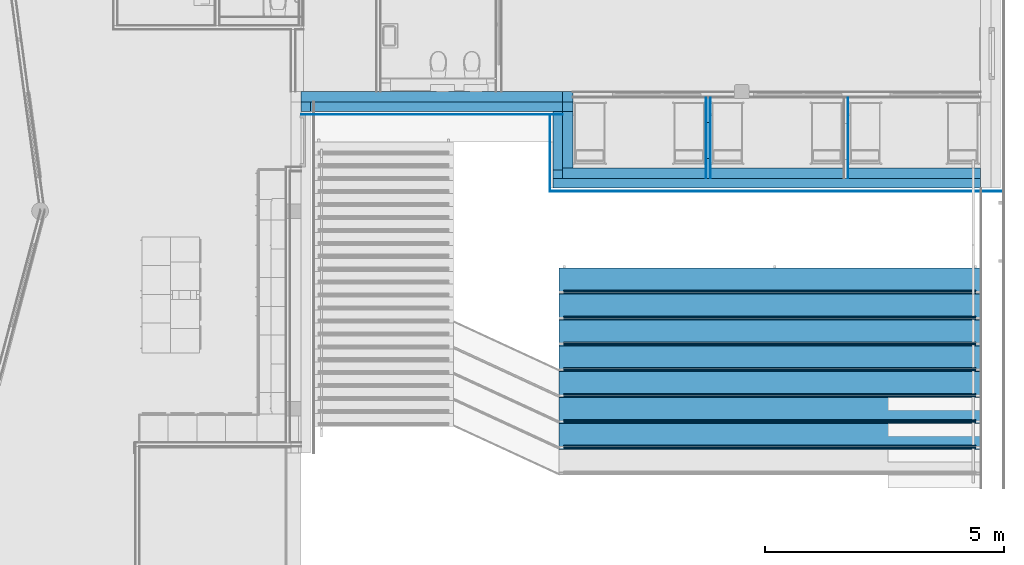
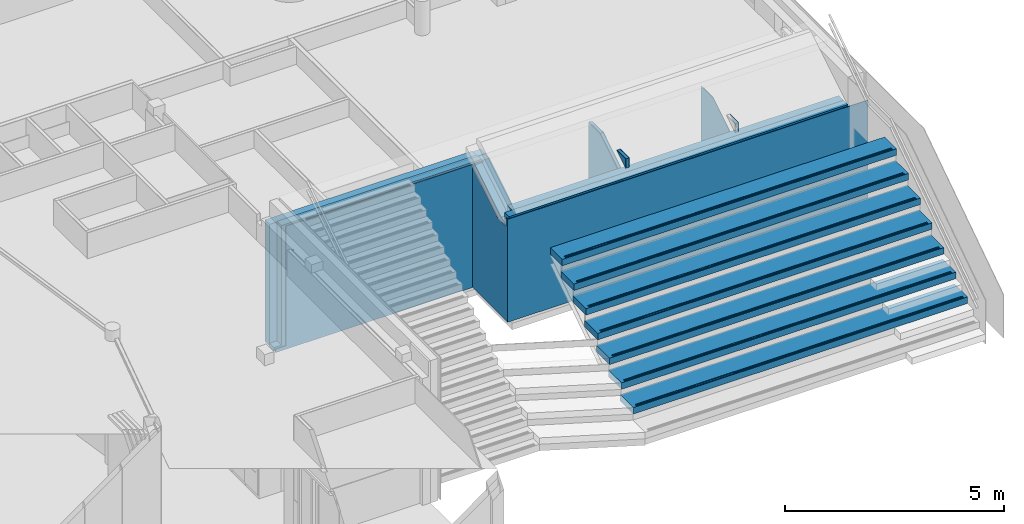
# One storey, part 70 of 167: 27 building element parts, 13 elements without a shape of their own.
"""IFC2X3 building model written with IfcOpenShell, lengths in millimetres."""

import ifcopenshell
import ifcopenshell.guid

model = None  # the IFC model being written
_history = None  # IfcOwnerHistory: only IFC2X3 demands one
_inside = {}  # id of a spatial element -> (the spatial element, [elements in it])
_under = {}  # id of a project, library or spatial element -> (it, [spatial elements below it])
_declared = {}  # id of a project -> (the project, [libraries it declares])
_typed = {}  # id of a type object -> (the type object, [elements of that type])
_made_of = {}  # id of a material, layer set ... -> (it, [elements and type objects made of it])


def new_model(schema):
    """Start an empty IFC model of exactly this schema.

    Asked for "IFC4X3", IfcOpenShell would pick the latest addendum, in which some entities
    have other attributes; the version numbers below select the first issue.
    IFC2X3 requires an IfcOwnerHistory on every rooted entity: one is made here for all.
    """
    global model, _history
    if schema == "IFC4X3":
        model = ifcopenshell.file(schema_version=(4, 3, 0, 0))
    else:
        model = ifcopenshell.file(schema=schema)
    _inside.clear()
    _under.clear()
    _declared.clear()
    _typed.clear()
    _made_of.clear()
    _history = None
    if model.schema == "IFC2X3":
        org = make("IfcOrganization", Name="unknown")
        user = make(
            "IfcPersonAndOrganization",
            ThePerson=make("IfcPerson", FamilyName="unknown"),
            TheOrganization=org,
        )
        app = make(
            "IfcApplication",
            ApplicationDeveloper=org,
            Version="unknown",
            ApplicationFullName="unknown",
            ApplicationIdentifier="unknown",
        )
        _history = make(
            "IfcOwnerHistory",
            OwningUser=user,
            OwningApplication=app,
            ChangeAction="ADDED",
            CreationDate=0,
        )
    return model


def make(cls, **values):
    """One entity of the class cls with the attributes given. An attribute that is None is left unset."""
    return model.create_entity(
        cls, **{name: value for name, value in values.items() if value is not None}
    )


def entity(cls, *values):
    """Any entity or typed value of the class cls, its attributes in the order of the schema. None: left unset."""
    e = model.create_entity(cls)
    for i, value in enumerate(values):
        if value is not None:
            e[i] = value
    return e


def rooted(cls, **values):
    """An entity with a GlobalId (a new one), such as an element, a storey or a relation."""
    return make(cls, GlobalId=ifcopenshell.guid.new(), OwnerHistory=_history, **values)


def si_unit(unit_type, name, prefix=None):
    """IfcSIUnit, for example si_unit("LENGTHUNIT", "METRE", prefix="MILLI")."""
    return make("IfcSIUnit", UnitType=unit_type, Prefix=prefix, Name=name)


def converted_unit(unit_type, name, factor, base, dimensions=None, offset=None):
    """IfcConversionBasedUnit, such as the inch: factor (a typed value) times the base unit."""
    return make(
        "IfcConversionBasedUnit"
        if offset is None
        else "IfcConversionBasedUnitWithOffset",
        ConversionOffset=offset,
        Dimensions=None
        if dimensions is None
        else entity("IfcDimensionalExponents", *dimensions),
        UnitType=unit_type,
        Name=name,
        ConversionFactor=make(
            "IfcMeasureWithUnit", ValueComponent=factor, UnitComponent=base
        ),
    )


def derived_unit(unit_type, elements):
    """IfcDerivedUnit: a product of units, each with its exponent."""
    return make(
        "IfcDerivedUnit",
        Elements=[
            make("IfcDerivedUnitElement", Unit=unit, Exponent=power)
            for unit, power in elements
        ],
        UnitType=unit_type,
    )


def money_unit(currency):
    """IfcMonetaryUnit."""
    return make("IfcMonetaryUnit", Currency=currency)


def assignment(units):
    """IfcUnitAssignment: the units of a project."""
    return None if units is None else make("IfcUnitAssignment", Units=units)


def point(xyz):
    """IfcCartesianPoint."""
    return None if xyz is None else make("IfcCartesianPoint", Coordinates=xyz)


def direction(xyz):
    """IfcDirection."""
    return None if xyz is None else make("IfcDirection", DirectionRatios=xyz)


def frame(location, z_axis=None, x_axis=None):
    """IfcAxis2Placement3D, a coordinate frame: its origin and axes. An axis left out is left unset."""
    return make(
        "IfcAxis2Placement3D",
        Location=point(location),
        Axis=direction(z_axis),
        RefDirection=direction(x_axis),
    )


def origin_with_axes():
    """The frame at (0, 0, 0) with the z axis (0, 0, 1) and the x axis (1, 0, 0) written out."""
    return frame((0.0, 0.0, 0.0), z_axis=(0.0, 0.0, 1.0), x_axis=(1.0, 0.0, 0.0))


def place(relative_to, where):
    """IfcLocalPlacement: puts the frame where relative to a parent placement (None: the world)."""
    return make(
        "IfcLocalPlacement", PlacementRelTo=relative_to, RelativePlacement=where
    )


def context(
    kind, dimensions, precision=None, world=None, true_north=None, identifier=None
):
    """IfcGeometricRepresentationContext, for example the 3D "Model" context."""
    return make(
        "IfcGeometricRepresentationContext",
        ContextIdentifier=identifier,
        ContextType=kind,
        CoordinateSpaceDimension=dimensions,
        Precision=precision,
        WorldCoordinateSystem=world,
        TrueNorth=true_north,
    )


def subcontext(parent, identifier, kind, view, scale=None):
    """IfcGeometricRepresentationSubContext, for example "Body" below "Model"."""
    return make(
        "IfcGeometricRepresentationSubContext",
        ContextIdentifier=identifier,
        ContextType=kind,
        ParentContext=parent,
        TargetScale=scale,
        TargetView=view,
    )


def project(units=None, contexts=None):
    """IfcProject with its units and contexts."""
    return rooted(
        "IfcProject",
        Name="project",
        RepresentationContexts=contexts,
        UnitsInContext=assignment(units),
    )


def spatial(cls, under=None, at=None, **own):
    """A site, building, storey or space (cls), placed at a placement, below another one or the project."""
    s = rooted(cls, ObjectPlacement=at, **own)
    if under is not None:
        _under.setdefault(under.id(), (under, []))[1].append(s)
    return s


def faces_of(points, faces, orient=None, outer=None):
    """IfcFace entities. A face is a list of loops; a loop is a list of indices into points, from 0.

    orient and outer hold one flag for each loop. By default every Orientation is true, the
    first loop of a face is its IfcFaceOuterBound and the others are IfcFaceBound.
    """
    made = []
    for i, loops in enumerate(faces):
        bounds = []
        for j, loop in enumerate(loops):
            is_outer = j == 0 if outer is None else outer[i][j]
            bounds.append(
                make(
                    "IfcFaceOuterBound" if is_outer else "IfcFaceBound",
                    Bound=make("IfcPolyLoop", Polygon=[points[k] for k in loop]),
                    Orientation=True if orient is None else orient[i][j],
                )
            )
        made.append(make("IfcFace", Bounds=bounds))
    return made


def faceted_brep(points, faces, orient=None, outer=None, voids=None):
    """IfcFacetedBrep: a solid bounded by flat faces; with voids (closed shells), ...WithVoids."""
    shared = [point(p) for p in points]
    hull = make("IfcClosedShell", CfsFaces=faces_of(shared, faces, orient, outer))
    if voids is None:
        return make("IfcFacetedBrep", Outer=hull)
    return make(
        "IfcFacetedBrepWithVoids",
        Outer=hull,
        Voids=[
            make(cls, CfsFaces=faces_of(shared, fs, o, b)) for cls, fs, o, b in voids
        ],
    )


def shape(context_of_items, identifier, shape_type, items):
    """IfcShapeRepresentation: the items that make up one representation, for example the "Body"."""
    return make(
        "IfcShapeRepresentation",
        ContextOfItems=context_of_items,
        RepresentationIdentifier=identifier,
        RepresentationType=shape_type,
        Items=items,
    )


def material(Name=None, Category=None):
    """IfcMaterial."""
    return make("IfcMaterial", Name=Name, Category=Category)


def made_of(thing, what):
    """Note that an element or type object is made of a material, layer set ...; save() writes the relation."""
    if what is not None:
        _made_of.setdefault(what.id(), (what, []))[1].append(thing)
    return thing


def type_object(cls, material=None, **own):
    """A type object (cls), such as IfcWallType, which elements share."""
    return made_of(rooted(cls, **own), material)


def element(
    cls,
    number,
    at=None,
    inside=None,
    cuts=None,
    type_object=None,
    material=None,
    context=None,
    identifier="Body",
    shape_type=None,
    held_by="IfcProductDefinitionShape",
    body=None,
    shapes=None,
    **own,
):
    """One element of the class cls, such as IfcWall. Its Tag is "e" and its number.

    at: its placement. inside: the storey or other place that contains it. cuts: it is an
    opening in that element (IfcRelVoidsElement). A single representation is given by context,
    identifier, shape_type and body (its items); several are given by shapes. held_by: the class
    of the entity that holds the representations. save() writes the other relations.
    """
    e = rooted(cls, Tag="e%d" % number, ObjectPlacement=at, **own)
    if body is not None:
        shapes = [shape(context, identifier, shape_type, body)]
    if shapes is not None:
        e.Representation = make(held_by, Representations=shapes)
    if inside is not None:
        _inside.setdefault(inside.id(), (inside, []))[1].append(e)
    if cuts is not None:
        rooted(
            "IfcRelVoidsElement", RelatingBuildingElement=cuts, RelatedOpeningElement=e
        )
    if type_object is not None:
        _typed.setdefault(type_object.id(), (type_object, []))[1].append(e)
    return made_of(e, material)


def aggregate(whole, parts):
    """IfcRelAggregates: a whole, such as a stair, and the parts it consists of."""
    return rooted("IfcRelAggregates", RelatingObject=whole, RelatedObjects=parts)


def save(model, path):
    """Write the relations noted so far, then the file.

    IfcRelAggregates (storeys below a building ...), IfcRelContainedInSpatialStructure (elements
    in a storey), IfcRelDefinesByType, IfcRelAssociatesMaterial and IfcRelDeclares: one each for
    every whole, place, type object, material and project.
    """
    for whole, parts in _under.values():
        aggregate(whole, parts)
    for where, things in _inside.values():
        rooted(
            "IfcRelContainedInSpatialStructure",
            RelatedElements=things,
            RelatingStructure=where,
        )
    for kind, things in _typed.values():
        rooted("IfcRelDefinesByType", RelatedObjects=things, RelatingType=kind)
    for what, things in _made_of.values():
        rooted("IfcRelAssociatesMaterial", RelatedObjects=things, RelatingMaterial=what)
    for by, libraries in _declared.values():
        rooted("IfcRelDeclares", RelatingContext=by, RelatedDefinitions=libraries)
    model.write(path)


model = new_model("IFC2X3")

# Units and contexts
model_context = context("Model", 3, precision=0.01, world=origin_with_axes(), true_north=direction((0.0, 1.0)))
plan_context = context("Plan", 3, precision=0.01, world=origin_with_axes(), true_north=direction((0.0, 1.0)))
body_context = subcontext(model_context, "Body", "Model", "MODEL_VIEW")
ifc_project = project(units=[si_unit("LENGTHUNIT", "METRE", prefix="MILLI"), si_unit("AREAUNIT", "SQUARE_METRE"), si_unit("VOLUMEUNIT", "CUBIC_METRE"), converted_unit("PLANEANGLEUNIT", "DEGREE", entity("IfcPlaneAngleMeasure", 0.0174532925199), si_unit("PLANEANGLEUNIT", "RADIAN"), dimensions=[0, 0, 0, 0, 0, 0, 0]), si_unit("SOLIDANGLEUNIT", "STERADIAN"), money_unit("EUR"), converted_unit("TIMEUNIT", "Year", entity("IfcTimeMeasure", 31556926.0), si_unit("TIMEUNIT", "SECOND"), dimensions=[0, 0, 1, 0, 0, 0, 0]), si_unit("MASSUNIT", "GRAM", prefix="KILO"), si_unit("THERMODYNAMICTEMPERATUREUNIT", "DEGREE_CELSIUS"), si_unit("LUMINOUSINTENSITYUNIT", "LUMEN"), si_unit("ENERGYUNIT", "JOULE", prefix="MEGA"), derived_unit("THERMALCONDUCTANCEUNIT", [(si_unit("POWERUNIT", "WATT"), 1), (si_unit("LENGTHUNIT", "METRE"), -1), (si_unit("THERMODYNAMICTEMPERATUREUNIT", "KELVIN"), -1)]), derived_unit("SPECIFICHEATCAPACITYUNIT", [(si_unit("ENERGYUNIT", "JOULE"), 1), (si_unit("MASSUNIT", "GRAM", prefix="KILO"), -1), (si_unit("THERMODYNAMICTEMPERATUREUNIT", "KELVIN"), -1)]), derived_unit("MASSDENSITYUNIT", [(si_unit("MASSUNIT", "GRAM", prefix="KILO"), 1), (si_unit("VOLUMEUNIT", "CUBIC_METRE"), -1)])], contexts=[model_context, plan_context])

# Site, building, storey
site_placement = place(None, origin_with_axes())
site = spatial("IfcSite", under=ifc_project, at=site_placement, Name="Site", CompositionType="ELEMENT")
building_placement = place(site_placement, origin_with_axes())
building = spatial("IfcBuilding", under=site, at=building_placement, Name="Naam gebouw", CompositionType="ELEMENT")
storey_placement = place(building_placement, origin_with_axes())
storey = spatial("IfcBuildingStorey", under=building, at=storey_placement, Name="Begane grond", CompositionType="ELEMENT", Elevation=0.0)

# Wall, building element parts
wall_type_1 = type_object("IfcWallType", Name="_TenW_21_Spouwmuur ht-kz-214- RC 4,7 488", PredefinedType="NOTDEFINED")
wall_1_placement = place(storey_placement, frame((43200.0, 29486.0000132, -100.0), z_axis=(0.0, 0.0, 1.0), x_axis=(-1.0, 0.0, 0.0)))
wall_1 = element("IfcWall", 1, at=wall_1_placement, inside=storey, type_object=wall_type_1, Name="22_Wand_Wand-x")
ifc_material_1 = material(Name="_TenW_21_Hout betimmering")
building_element_part_1_placement = place(wall_1_placement, origin_with_axes())
building_element_part_1 = element("IfcBuildingElementPart", 2, at=building_element_part_1_placement, material=ifc_material_1, Name="_TenW_21_Hout betimmering", context=body_context, shape_type="Brep", body=[
    faceted_brep([(9212.99999768, 274.0, 2865.85129299), (-274.0, 274.0, 2865.85129299), (-274.0, 256.0, 2865.85129299), (9212.9999977, 256.0, 2865.85129299), (9212.99999768, 274.0, 0.0), (-274.0, 274.0, 0.0), (-274.0, 256.0, 0.0), (9212.9999977, 256.0, 0.0)], [[[0, 1, 2, 3]], [[4, 5, 1, 0]], [[5, 6, 2, 1]], [[3, 2, 6, 7]], [[0, 3, 7, 4]], [[7, 6, 5, 4]]]),
])
ifc_material_2 = material(Name="Isolatie - Steenwol zacht")
building_element_part_2_placement = place(wall_1_placement, origin_with_axes())
building_element_part_2 = element("IfcBuildingElementPart", 3, at=building_element_part_2_placement, material=ifc_material_2, Name="Isolatie - Steenwol zacht", context=body_context, shape_type="Brep", body=[
    faceted_brep([(9138.99999775, 200.0, 2865.85129299), (214.0, 200.0, 2865.85129299), (214.0, 0.0, 2865.85129299), (9138.99999791, 0.0, 2865.85129299), (9138.99999775, 200.0, 0.0), (214.0, 200.0, 0.0), (214.0, 0.0, 0.0), (9138.99999791, 0.0, 0.0)], [[[0, 1, 2, 3]], [[4, 5, 1, 0]], [[5, 6, 2, 1]], [[3, 2, 6, 7]], [[4, 0, 3, 7]], [[7, 6, 5, 4]]]),
])
ifc_material_3 = material(Name="Steen - Kalkzandsteen C")
building_element_part_3_placement = place(wall_1_placement, origin_with_axes())
building_element_part_3 = element("IfcBuildingElementPart", 4, at=building_element_part_3_placement, material=ifc_material_3, Name="Steen - Kalkzandsteen C", context=body_context, shape_type="Brep", body=[
    faceted_brep([(214.0, 0.0, 30.0), (214.0, -214.0, 30.0), (214.0, -214.0, 2865.85129299), (214.0, 0.0, 2865.85129299), (8938.99999864, -214.0, 30.0), (8938.99999864, 0.0, 30.0), (8938.99999809, -214.0, 2865.85129299), (8938.99999791, 0.0, 2865.85129299)], [[[0, 1, 2, 3]], [[4, 1, 0, 5]], [[1, 4, 6, 2]], [[7, 3, 2, 6]], [[5, 0, 3, 7]], [[4, 5, 7, 6]]]),
])
aggregate(wall_1, [building_element_part_1, building_element_part_2, building_element_part_3])

# Wall, building element part
wall_type_2 = type_object("IfcWallType", Name="_TenW_22_Metalstud 100 enkel gipsvezelplaat 100", PredefinedType="NOTDEFINED")
wall_2_placement = place(storey_placement, frame((40174.9998586, 31237.4997738, -100.0), z_axis=(0.0, 0.0, 1.0), x_axis=(0.0, -1.0, 0.0)))
wall_2 = element("IfcWall", 5, at=wall_2_placement, inside=storey, type_object=wall_type_2, Name="22_Wand_Wand-x")
ifc_material_4 = material(Name="Gipsplaat watervast")
building_element_part_4_placement = place(wall_2_placement, origin_with_axes())
building_element_part_4 = element("IfcBuildingElementPart", 6, at=building_element_part_4_placement, material=ifc_material_4, Name="Gipsplaat watervast", context=body_context, shape_type="Brep", body=[
    faceted_brep([(1537.49976061, 49.999999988, 30.0), (62.5, 49.9999999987, 30.0), (62.5, 49.9999998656, 3211.00000112), (602.198929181, 49.9999995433, 3211.00000112), (1537.49976061, 49.9999989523, 2626.56830936), (62.5, 37.5000000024, 30.0), (1537.49976061, 37.5000000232, 30.0), (62.5, 37.5000002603, 3211.00000112), (602.268809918, 37.5000008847, 3211.00000112), (1537.49976061, 37.5000020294, 2626.61197501)], [[[0, 1, 2, 3, 4]], [[5, 1, 0, 6]], [[1, 5, 7, 2]], [[7, 8, 3, 2]], [[9, 4, 3, 8]], [[6, 0, 4, 9]], [[5, 6, 9, 8, 7]]]),
    faceted_brep([(1751.49976061, 49.9999988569, 2964.51971897), (1357.04269048, 49.9999990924, 3211.00000112), (1751.49976061, 49.9999988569, 3211.00000112), (1357.11257121, 37.5000017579, 3211.00000112), (1751.49976061, 37.5000022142, 2964.56338462), (1751.49976061, 37.5000022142, 3211.00000112)], [[[0, 1, 2]], [[3, 1, 0, 4]], [[1, 3, 5, 2]], [[4, 0, 2, 5]], [[3, 4, 5]]]),
    faceted_brep([(1537.49976061, 49.9999988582, 2862.40399004), (1531.98283645, 49.9999988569, 2865.85129299), (1537.49976061, 49.9999988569, 2865.85129299), (1532.05271718, 37.5000022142, 2865.85129299), (1537.49976061, 37.5000022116, 2862.44765568), (1537.49976061, 37.5000022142, 2865.85129299)], [[[0, 1, 2]], [[3, 1, 0, 4]], [[1, 3, 5, 2]], [[4, 0, 2, 5]], [[3, 4, 5]]]),
])
aggregate(wall_2, [building_element_part_4])

# Wall, building element parts
wall_3_placement = place(storey_placement, frame((37299.9998586, 31237.4997738, -100.0), z_axis=(0.0, 0.0, 1.0), x_axis=(0.0, -1.0, 0.0)))
wall_3 = element("IfcWall", 7, at=wall_3_placement, inside=storey, type_object=wall_type_2, Name="22_Wand_Wand-x")
building_element_part_5_placement = place(wall_3_placement, origin_with_axes())
building_element_part_5 = element("IfcBuildingElementPart", 8, at=building_element_part_5_placement, material=ifc_material_4, Name="Gipsplaat watervast", context=body_context, shape_type="Brep", body=[
    faceted_brep([(1537.49976061, 50.0000000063, 30.0), (62.5, 50.0000000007, 30.0), (62.5, 50.000000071, 3234.96841684), (579.91341771, 50.0000002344, 3234.96841684), (1537.49976061, 50.000000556, 2636.61140958), (62.5, 37.5000000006, 30.0), (1537.49976061, 37.5000000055, 30.0), (62.5, 37.5000000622, 3234.96841684), (579.983298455, 37.5000002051, 3234.96841684), (1537.49976061, 37.5000004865, 2636.65507523)], [[[0, 1, 2, 3, 4]], [[5, 1, 0, 6]], [[1, 5, 7, 2]], [[7, 8, 3, 2]], [[9, 4, 3, 8]], [[6, 0, 4, 9]], [[5, 6, 9, 8, 7]]]),
    faceted_brep([(1751.49976061, 50.0000006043, 2974.56281919), (1334.75717901, 50.0000004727, 3234.96841684), (1751.49976061, 50.0000006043, 3234.96841684), (1334.82705975, 37.5000004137, 3234.96841684), (1751.49976061, 37.5000005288, 2974.60648484), (1751.49976061, 37.5000005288, 3234.96841684)], [[[0, 1, 2]], [[3, 1, 0, 4]], [[1, 3, 5, 2]], [[4, 0, 2, 5]], [[3, 4, 5]]]),
])
building_element_part_6_placement = place(wall_3_placement, origin_with_axes())
building_element_part_6 = element("IfcBuildingElementPart", 9, at=building_element_part_6_placement, material=ifc_material_2, Name="Isolatie - Steenwol zacht", context=body_context, shape_type="Brep", body=[
    faceted_brep([(1537.49976061, 37.5000000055, 30.0), (50.0, 37.5000000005, 30.0), (50.0, 37.5000000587, 3234.96841684), (579.983298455, 37.5000002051, 3234.96841684), (1537.49976061, 37.5000004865, 2636.65507523), (50.0, -37.4999999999, 30.0), (1537.49976061, -37.4999999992, 30.0), (50.0, -37.4999999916, 3234.96841684), (580.402582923, -37.4999999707, 3234.96841684), (1537.49976061, -37.4999999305, 2636.91706915)], [[[0, 1, 2, 3, 4]], [[5, 1, 0, 6]], [[1, 5, 7, 2]], [[7, 8, 3, 2]], [[9, 4, 3, 8]], [[6, 0, 4, 9]], [[5, 6, 9, 8, 7]]]),
    faceted_brep([(1751.49976061, 37.5000005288, 2974.60648484), (1334.82705975, 37.5000004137, 3234.96841684), (1751.49976061, 37.5000005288, 3234.96841684), (1335.24634422, -37.4999999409, 3234.96841684), (1751.49976061, -37.4999999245, 2974.86847876), (1751.49976061, -37.4999999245, 3234.96841684)], [[[0, 1, 2]], [[3, 1, 0, 4]], [[1, 3, 5, 2]], [[4, 0, 2, 5]], [[3, 4, 5]]]),
])
building_element_part_7_placement = place(wall_3_placement, origin_with_axes())
building_element_part_7 = element("IfcBuildingElementPart", 10, at=building_element_part_7_placement, material=ifc_material_4, Name="Gipsplaat watervast", context=body_context, shape_type="Brep", body=[
    faceted_brep([(1537.49976061, -37.4999999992, 30.0), (62.5, -37.4999999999, 30.0), (62.5, -37.4999999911, 3234.96841684), (580.402582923, -37.4999999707, 3234.96841684), (1537.49976061, -37.4999999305, 2636.91706915), (62.5, -50.0, 30.0), (1537.49976061, -50.0, 30.0), (62.5, -50.0, 3234.96841684), (580.472463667, -50.0, 3234.96841684), (1537.49976061, -50.0, 2636.96073481)], [[[0, 1, 2, 3, 4]], [[5, 1, 0, 6]], [[1, 5, 7, 2]], [[7, 8, 3, 2]], [[9, 4, 3, 8]], [[6, 0, 4, 9]], [[5, 6, 9, 8, 7]]]),
    faceted_brep([(1751.49976061, -37.4999999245, 2974.86847876), (1335.24634422, -37.4999999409, 3234.96841684), (1751.49976061, -37.4999999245, 3234.96841684), (1335.31622497, -50.0, 3234.96841684), (1751.49976061, -50.0, 2974.91214442), (1751.49976061, -50.0, 3234.96841684)], [[[0, 1, 2]], [[3, 1, 0, 4]], [[1, 3, 5, 2]], [[4, 0, 2, 5]], [[3, 4, 5]]]),
])
aggregate(wall_3, [building_element_part_5, building_element_part_6, building_element_part_7])

# Stair, members, building element parts
stair_placement = place(storey_placement, frame((34186.0021329, 23294.6820704, 0.0), z_axis=(0.0, 0.0, 1.0), x_axis=(1.0, 0.0, 0.0)))
stair = element("IfcStair", 11, at=stair_placement, inside=storey, Name="_Trap_Trap-x", ShapeType="NOTDEFINED")
member_type = type_object("IfcMemberType", Name="IfcMember", PredefinedType="USERDEFINED")
member_1_placement = place(stair_placement, frame((4499.99933218, 536.391741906, 720.0), z_axis=(0.0, 0.0, 1.0), x_axis=(0.999999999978, -6.66713791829e-06, 0.0)))
member_1 = element("IfcMember", 12, at=member_1_placement, type_object=member_type, Name="_Trap - trede_Traptrede-x")
ifc_material_5 = material(Name="Beton gewapend prefab")
building_element_part_8_placement = place(member_1_placement, origin_with_axes())
building_element_part_8 = element("IfcBuildingElementPart", 13, at=building_element_part_8_placement, material=ifc_material_5, Name="Beton gewapend prefab", context=body_context, shape_type="Brep", body=[
    faceted_brep([(-4500.0, 0.0, -180.0), (4299.97799864, 0.0, -180.0), (4299.97799864, 0.0, 0.0), (-4500.0, 0.0, 0.0), (-4500.0, 600.000029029, -180.0), (4299.97799864, 599.999953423, -180.0), (4299.97799864, 599.999953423, 0.0), (-4500.0, 600.000029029, 0.0)], [[[0, 1, 2, 3]], [[0, 4, 5, 1]], [[1, 5, 6, 2]], [[3, 2, 6, 7]], [[4, 0, 3, 7]], [[5, 4, 7, 6]]]),
])
ifc_material_6 = material(Name="Beton gewapend prefab vloer")
building_element_part_9_placement = place(member_1_placement, origin_with_axes())
building_element_part_9 = element("IfcBuildingElementPart", 14, at=building_element_part_9_placement, material=ifc_material_6, Name="Beton gewapend prefab vloer", context=body_context, shape_type="Brep", body=[
    faceted_brep([(-4399.99998776, 19.9999499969, 0.0), (-4399.99998776, 29.9999499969, 0.0), (4199.9779864, 29.9999499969, 0.0), (4199.9779864, 19.9999499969, 0.0), (-4399.99998776, 19.9999499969, 3.0), (-4399.99998776, 29.9999499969, 3.0), (4199.9779864, 29.9999499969, 3.0), (4199.9779864, 19.9999499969, 3.0)], [[[0, 1, 2, 3]], [[0, 4, 5, 1]], [[1, 5, 6, 2]], [[3, 2, 6, 7]], [[4, 0, 3, 7]], [[5, 4, 7, 6]]]),
    faceted_brep([(-4399.99998776, 45.0000186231, 0.0), (-4399.99998776, 55.0000186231, 0.0), (4199.9779864, 55.0000186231, 0.0), (4199.9779864, 45.0000186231, 0.0), (-4399.99998776, 45.0000186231, 3.0), (-4399.99998776, 55.0000186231, 3.0), (4199.9779864, 55.0000186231, 3.0), (4199.9779864, 45.0000186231, 3.0)], [[[0, 1, 2, 3]], [[0, 4, 5, 1]], [[1, 5, 6, 2]], [[3, 2, 6, 7]], [[4, 0, 3, 7]], [[5, 4, 7, 6]]]),
    faceted_brep([(-4399.99998776, 69.9999561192, 0.0), (-4399.99998776, 79.9999561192, 0.0), (4199.9779864, 79.9999561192, 0.0), (4199.9779864, 69.9999561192, 0.0), (-4399.99998776, 69.9999561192, 3.0), (-4399.99998776, 79.9999561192, 3.0), (4199.9779864, 79.9999561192, 3.0), (4199.9779864, 69.9999561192, 3.0)], [[[0, 1, 2, 3]], [[0, 4, 5, 1]], [[1, 5, 6, 2]], [[3, 2, 6, 7]], [[4, 0, 3, 7]], [[5, 4, 7, 6]]]),
])
aggregate(member_1, [building_element_part_8, building_element_part_9])
member_2_placement = place(stair_placement, frame((4500.00293243, 1076.39174189, 1080.0), z_axis=(0.0, 0.0, 1.0), x_axis=(0.999999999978, -6.66713791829e-06, 0.0)))
member_2 = element("IfcMember", 15, at=member_2_placement, type_object=member_type, Name="_Trap - trede_Traptrede-x")
building_element_part_10_placement = place(member_2_placement, origin_with_axes())
building_element_part_10 = element("IfcBuildingElementPart", 16, at=building_element_part_10_placement, material=ifc_material_5, Name="Beton gewapend prefab", context=body_context, shape_type="Brep", body=[
    faceted_brep([(-4500.0, 0.0, -180.0), (4299.97799864, 0.0, -180.0), (4299.97799864, 0.0, 0.0), (-4500.0, 0.0, 0.0), (-4500.0, 600.000029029, -180.0), (4299.97799864, 599.999953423, -180.0), (4299.97799864, 599.999953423, 0.0), (-4500.0, 600.000029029, 0.0)], [[[0, 1, 2, 3]], [[0, 4, 5, 1]], [[1, 5, 6, 2]], [[3, 2, 6, 7]], [[4, 0, 3, 7]], [[5, 4, 7, 6]]]),
])
building_element_part_11_placement = place(member_2_placement, origin_with_axes())
building_element_part_11 = element("IfcBuildingElementPart", 17, at=building_element_part_11_placement, material=ifc_material_6, Name="Beton gewapend prefab vloer", context=body_context, shape_type="Brep", body=[
    faceted_brep([(-4399.99998776, 19.9999499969, 0.0), (-4399.99998776, 29.9999499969, 0.0), (4199.9779864, 29.9999499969, 0.0), (4199.9779864, 19.9999499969, 0.0), (-4399.99998776, 19.9999499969, 3.0), (-4399.99998776, 29.9999499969, 3.0), (4199.9779864, 29.9999499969, 3.0), (4199.9779864, 19.9999499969, 3.0)], [[[0, 1, 2, 3]], [[0, 4, 5, 1]], [[1, 5, 6, 2]], [[3, 2, 6, 7]], [[4, 0, 3, 7]], [[5, 4, 7, 6]]]),
    faceted_brep([(-4399.99998776, 45.0000186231, 0.0), (-4399.99998776, 55.0000186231, 0.0), (4199.9779864, 55.0000186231, 0.0), (4199.9779864, 45.0000186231, 0.0), (-4399.99998776, 45.0000186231, 3.0), (-4399.99998776, 55.0000186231, 3.0), (4199.9779864, 55.0000186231, 3.0), (4199.9779864, 45.0000186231, 3.0)], [[[0, 1, 2, 3]], [[0, 4, 5, 1]], [[1, 5, 6, 2]], [[3, 2, 6, 7]], [[4, 0, 3, 7]], [[5, 4, 7, 6]]]),
    faceted_brep([(-4399.99998776, 69.9999561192, 0.0), (-4399.99998776, 79.9999561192, 0.0), (4199.9779864, 79.9999561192, 0.0), (4199.9779864, 69.9999561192, 0.0), (-4399.99998776, 69.9999561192, 3.0), (-4399.99998776, 79.9999561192, 3.0), (4199.9779864, 79.9999561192, 3.0), (4199.9779864, 69.9999561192, 3.0)], [[[0, 1, 2, 3]], [[0, 4, 5, 1]], [[1, 5, 6, 2]], [[3, 2, 6, 7]], [[4, 0, 3, 7]], [[5, 4, 7, 6]]]),
])
aggregate(member_2, [building_element_part_10, building_element_part_11])
member_3_placement = place(stair_placement, frame((4500.00653269, 1616.39174188, 1440.0), z_axis=(0.0, 0.0, 1.0), x_axis=(0.999999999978, -6.66713791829e-06, 0.0)))
member_3 = element("IfcMember", 18, at=member_3_placement, type_object=member_type, Name="_Trap - trede_Traptrede-x")
building_element_part_12_placement = place(member_3_placement, origin_with_axes())
building_element_part_12 = element("IfcBuildingElementPart", 19, at=building_element_part_12_placement, material=ifc_material_5, Name="Beton gewapend prefab", context=body_context, shape_type="Brep", body=[
    faceted_brep([(-4500.0, 0.0, -180.0), (4299.97799864, 0.0, -180.0), (4299.97799864, 0.0, 0.0), (-4500.0, 0.0, 0.0), (-4500.0, 600.000029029, -180.0), (4299.97799864, 599.999953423, -180.0), (4299.97799864, 599.999953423, 0.0), (-4500.0, 600.000029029, 0.0)], [[[0, 1, 2, 3]], [[0, 4, 5, 1]], [[1, 5, 6, 2]], [[3, 2, 6, 7]], [[4, 0, 3, 7]], [[5, 4, 7, 6]]]),
])
building_element_part_13_placement = place(member_3_placement, origin_with_axes())
building_element_part_13 = element("IfcBuildingElementPart", 20, at=building_element_part_13_placement, material=ifc_material_6, Name="Beton gewapend prefab vloer", context=body_context, shape_type="Brep", body=[
    faceted_brep([(-4399.99998776, 19.9999499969, 0.0), (-4399.99998776, 29.9999499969, 0.0), (4199.9779864, 29.9999499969, 0.0), (4199.9779864, 19.9999499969, 0.0), (-4399.99998776, 19.9999499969, 3.0), (-4399.99998776, 29.9999499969, 3.0), (4199.9779864, 29.9999499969, 3.0), (4199.9779864, 19.9999499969, 3.0)], [[[0, 1, 2, 3]], [[0, 4, 5, 1]], [[1, 5, 6, 2]], [[3, 2, 6, 7]], [[4, 0, 3, 7]], [[5, 4, 7, 6]]]),
    faceted_brep([(-4399.99998776, 45.0000186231, 0.0), (-4399.99998776, 55.0000186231, 0.0), (4199.9779864, 55.0000186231, 0.0), (4199.9779864, 45.0000186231, 0.0), (-4399.99998776, 45.0000186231, 3.0), (-4399.99998776, 55.0000186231, 3.0), (4199.9779864, 55.0000186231, 3.0), (4199.9779864, 45.0000186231, 3.0)], [[[0, 1, 2, 3]], [[0, 4, 5, 1]], [[1, 5, 6, 2]], [[3, 2, 6, 7]], [[4, 0, 3, 7]], [[5, 4, 7, 6]]]),
    faceted_brep([(-4399.99998776, 69.9999561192, 0.0), (-4399.99998776, 79.9999561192, 0.0), (4199.9779864, 79.9999561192, 0.0), (4199.9779864, 69.9999561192, 0.0), (-4399.99998776, 69.9999561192, 3.0), (-4399.99998776, 79.9999561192, 3.0), (4199.9779864, 79.9999561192, 3.0), (4199.9779864, 69.9999561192, 3.0)], [[[0, 1, 2, 3]], [[0, 4, 5, 1]], [[1, 5, 6, 2]], [[3, 2, 6, 7]], [[4, 0, 3, 7]], [[5, 4, 7, 6]]]),
])
aggregate(member_3, [building_element_part_12, building_element_part_13])
member_4_placement = place(stair_placement, frame((4500.01013294, 2156.39174187, 1800.0), z_axis=(0.0, 0.0, 1.0), x_axis=(0.999999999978, -6.66713791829e-06, 0.0)))
member_4 = element("IfcMember", 21, at=member_4_placement, type_object=member_type, Name="_Trap - trede_Traptrede-x")
building_element_part_14_placement = place(member_4_placement, origin_with_axes())
building_element_part_14 = element("IfcBuildingElementPart", 22, at=building_element_part_14_placement, material=ifc_material_5, Name="Beton gewapend prefab", context=body_context, shape_type="Brep", body=[
    faceted_brep([(-4500.0, 0.0, -180.0), (4299.97799864, 0.0, -180.0), (4299.97799864, 0.0, 0.0), (-4500.0, 0.0, 0.0), (-4500.0, 600.000029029, -180.0), (4299.97799864, 599.999953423, -180.0), (4299.97799864, 599.999953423, 0.0), (-4500.0, 600.000029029, 0.0)], [[[0, 1, 2, 3]], [[0, 4, 5, 1]], [[1, 5, 6, 2]], [[3, 2, 6, 7]], [[4, 0, 3, 7]], [[5, 4, 7, 6]]]),
])
building_element_part_15_placement = place(member_4_placement, origin_with_axes())
building_element_part_15 = element("IfcBuildingElementPart", 23, at=building_element_part_15_placement, material=ifc_material_6, Name="Beton gewapend prefab vloer", context=body_context, shape_type="Brep", body=[
    faceted_brep([(-4399.99998776, 19.9999499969, 0.0), (-4399.99998776, 29.9999499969, 0.0), (4199.9779864, 29.9999499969, 0.0), (4199.9779864, 19.9999499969, 0.0), (-4399.99998776, 19.9999499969, 3.0), (-4399.99998776, 29.9999499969, 3.0), (4199.9779864, 29.9999499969, 3.0), (4199.9779864, 19.9999499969, 3.0)], [[[0, 1, 2, 3]], [[0, 4, 5, 1]], [[1, 5, 6, 2]], [[3, 2, 6, 7]], [[4, 0, 3, 7]], [[5, 4, 7, 6]]]),
    faceted_brep([(-4399.99998776, 45.0000186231, 0.0), (-4399.99998776, 55.0000186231, 0.0), (4199.9779864, 55.0000186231, 0.0), (4199.9779864, 45.0000186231, 0.0), (-4399.99998776, 45.0000186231, 3.0), (-4399.99998776, 55.0000186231, 3.0), (4199.9779864, 55.0000186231, 3.0), (4199.9779864, 45.0000186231, 3.0)], [[[0, 1, 2, 3]], [[0, 4, 5, 1]], [[1, 5, 6, 2]], [[3, 2, 6, 7]], [[4, 0, 3, 7]], [[5, 4, 7, 6]]]),
    faceted_brep([(-4399.99998776, 69.9999561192, 0.0), (-4399.99998776, 79.9999561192, 0.0), (4199.9779864, 79.9999561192, 0.0), (4199.9779864, 69.9999561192, 0.0), (-4399.99998776, 69.9999561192, 3.0), (-4399.99998776, 79.9999561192, 3.0), (4199.9779864, 79.9999561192, 3.0), (4199.9779864, 69.9999561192, 3.0)], [[[0, 1, 2, 3]], [[0, 4, 5, 1]], [[1, 5, 6, 2]], [[3, 2, 6, 7]], [[4, 0, 3, 7]], [[5, 4, 7, 6]]]),
])
aggregate(member_4, [building_element_part_14, building_element_part_15])
member_5_placement = place(stair_placement, frame((4500.01373319, 2696.39174186, 2160.0), z_axis=(0.0, 0.0, 1.0), x_axis=(0.999999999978, -6.66713791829e-06, 0.0)))
member_5 = element("IfcMember", 24, at=member_5_placement, type_object=member_type, Name="_Trap - trede_Traptrede-x")
building_element_part_16_placement = place(member_5_placement, origin_with_axes())
building_element_part_16 = element("IfcBuildingElementPart", 25, at=building_element_part_16_placement, material=ifc_material_5, Name="Beton gewapend prefab", context=body_context, shape_type="Brep", body=[
    faceted_brep([(-4500.0, 0.0, -180.0), (4299.97799864, 0.0, -180.0), (4299.97799864, 0.0, 0.0), (-4500.0, 0.0, 0.0), (-4500.0, 600.000029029, -180.0), (4299.97799864, 599.999953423, -180.0), (4299.97799864, 599.999953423, 0.0), (-4500.0, 600.000029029, 0.0)], [[[0, 1, 2, 3]], [[0, 4, 5, 1]], [[1, 5, 6, 2]], [[3, 2, 6, 7]], [[4, 0, 3, 7]], [[5, 4, 7, 6]]]),
])
building_element_part_17_placement = place(member_5_placement, origin_with_axes())
building_element_part_17 = element("IfcBuildingElementPart", 26, at=building_element_part_17_placement, material=ifc_material_6, Name="Beton gewapend prefab vloer", context=body_context, shape_type="Brep", body=[
    faceted_brep([(-4399.99998776, 19.9999499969, 0.0), (-4399.99998776, 29.9999499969, 0.0), (4199.9779864, 29.9999499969, 0.0), (4199.9779864, 19.9999499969, 0.0), (-4399.99998776, 19.9999499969, 3.0), (-4399.99998776, 29.9999499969, 3.0), (4199.9779864, 29.9999499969, 3.0), (4199.9779864, 19.9999499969, 3.0)], [[[0, 1, 2, 3]], [[0, 4, 5, 1]], [[1, 5, 6, 2]], [[3, 2, 6, 7]], [[4, 0, 3, 7]], [[5, 4, 7, 6]]]),
    faceted_brep([(-4399.99998776, 45.0000186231, 0.0), (-4399.99998776, 55.0000186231, 0.0), (4199.9779864, 55.0000186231, 0.0), (4199.9779864, 45.0000186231, 0.0), (-4399.99998776, 45.0000186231, 3.0), (-4399.99998776, 55.0000186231, 3.0), (4199.9779864, 55.0000186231, 3.0), (4199.9779864, 45.0000186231, 3.0)], [[[0, 1, 2, 3]], [[0, 4, 5, 1]], [[1, 5, 6, 2]], [[3, 2, 6, 7]], [[4, 0, 3, 7]], [[5, 4, 7, 6]]]),
    faceted_brep([(-4399.99998776, 69.9999561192, 0.0), (-4399.99998776, 79.9999561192, 0.0), (4199.9779864, 79.9999561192, 0.0), (4199.9779864, 69.9999561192, 0.0), (-4399.99998776, 69.9999561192, 3.0), (-4399.99998776, 79.9999561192, 3.0), (4199.9779864, 79.9999561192, 3.0), (4199.9779864, 69.9999561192, 3.0)], [[[0, 1, 2, 3]], [[0, 4, 5, 1]], [[1, 5, 6, 2]], [[3, 2, 6, 7]], [[4, 0, 3, 7]], [[5, 4, 7, 6]]]),
])
aggregate(member_5, [building_element_part_16, building_element_part_17])
member_6_placement = place(stair_placement, frame((4500.01733345, 3236.39174185, 2520.0), z_axis=(0.0, 0.0, 1.0), x_axis=(0.999999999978, -6.66713791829e-06, 0.0)))
member_6 = element("IfcMember", 27, at=member_6_placement, type_object=member_type, Name="_Trap - trede_Traptrede-x")
building_element_part_18_placement = place(member_6_placement, origin_with_axes())
building_element_part_18 = element("IfcBuildingElementPart", 28, at=building_element_part_18_placement, material=ifc_material_5, Name="Beton gewapend prefab", context=body_context, shape_type="Brep", body=[
    faceted_brep([(-4500.0, 0.0, -180.0), (4299.97799864, 0.0, -180.0), (4299.97799864, 0.0, 0.0), (-4500.0, 0.0, 0.0), (-4500.0, 600.000029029, -180.0), (4299.97799864, 599.999953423, -180.0), (4299.97799864, 599.999953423, 0.0), (-4500.0, 600.000029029, 0.0)], [[[0, 1, 2, 3]], [[0, 4, 5, 1]], [[1, 5, 6, 2]], [[3, 2, 6, 7]], [[4, 0, 3, 7]], [[5, 4, 7, 6]]]),
])
building_element_part_19_placement = place(member_6_placement, origin_with_axes())
building_element_part_19 = element("IfcBuildingElementPart", 29, at=building_element_part_19_placement, material=ifc_material_6, Name="Beton gewapend prefab vloer", context=body_context, shape_type="Brep", body=[
    faceted_brep([(-4399.99998776, 19.9999499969, 0.0), (-4399.99998776, 29.9999499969, 0.0), (4199.9779864, 29.9999499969, 0.0), (4199.9779864, 19.9999499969, 0.0), (-4399.99998776, 19.9999499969, 3.0), (-4399.99998776, 29.9999499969, 3.0), (4199.9779864, 29.9999499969, 3.0), (4199.9779864, 19.9999499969, 3.0)], [[[0, 1, 2, 3]], [[0, 4, 5, 1]], [[1, 5, 6, 2]], [[3, 2, 6, 7]], [[4, 0, 3, 7]], [[5, 4, 7, 6]]]),
    faceted_brep([(-4399.99998776, 45.0000186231, 0.0), (-4399.99998776, 55.0000186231, 0.0), (4199.9779864, 55.0000186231, 0.0), (4199.9779864, 45.0000186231, 0.0), (-4399.99998776, 45.0000186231, 3.0), (-4399.99998776, 55.0000186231, 3.0), (4199.9779864, 55.0000186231, 3.0), (4199.9779864, 45.0000186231, 3.0)], [[[0, 1, 2, 3]], [[0, 4, 5, 1]], [[1, 5, 6, 2]], [[3, 2, 6, 7]], [[4, 0, 3, 7]], [[5, 4, 7, 6]]]),
    faceted_brep([(-4399.99998776, 69.9999561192, 0.0), (-4399.99998776, 79.9999561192, 0.0), (4199.9779864, 79.9999561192, 0.0), (4199.9779864, 69.9999561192, 0.0), (-4399.99998776, 69.9999561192, 3.0), (-4399.99998776, 79.9999561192, 3.0), (4199.9779864, 79.9999561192, 3.0), (4199.9779864, 69.9999561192, 3.0)], [[[0, 1, 2, 3]], [[0, 4, 5, 1]], [[1, 5, 6, 2]], [[3, 2, 6, 7]], [[4, 0, 3, 7]], [[5, 4, 7, 6]]]),
])
aggregate(member_6, [building_element_part_18, building_element_part_19])
member_7_placement = place(stair_placement, frame((4500.0209337, 3776.39174183, 2880.0), z_axis=(0.0, 0.0, 1.0), x_axis=(0.999999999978, -6.66713791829e-06, 0.0)))
member_7 = element("IfcMember", 30, at=member_7_placement, type_object=member_type, Name="_Trap - trede_Traptrede-x")
aggregate(stair, [member_1, member_2, member_3, member_4, member_5, member_6, member_7])
building_element_part_20_placement = place(member_7_placement, origin_with_axes())
building_element_part_20 = element("IfcBuildingElementPart", 31, at=building_element_part_20_placement, material=ifc_material_5, Name="Beton gewapend prefab", context=body_context, shape_type="Brep", body=[
    faceted_brep([(-4500.0, 0.0, -180.0), (4299.97799864, 0.0, -180.0), (4299.97799864, 0.0, 0.0), (-4500.0, 0.0, 0.0), (-4500.0, 540.0, -180.0), (4299.97799864, 540.0, -180.0), (4299.97799864, 540.0, 0.0), (-4500.0, 540.0, 0.0)], [[[0, 1, 2, 3]], [[0, 4, 5, 1]], [[1, 5, 6, 2]], [[3, 2, 6, 7]], [[4, 0, 3, 7]], [[5, 4, 7, 6]]]),
])
building_element_part_21_placement = place(member_7_placement, origin_with_axes())
building_element_part_21 = element("IfcBuildingElementPart", 32, at=building_element_part_21_placement, material=ifc_material_6, Name="Beton gewapend prefab vloer", context=body_context, shape_type="Brep", body=[
    faceted_brep([(-4399.99998776, 19.9999499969, 0.0), (-4399.99998776, 29.9999499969, 0.0), (4199.9779864, 29.9999499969, 0.0), (4199.9779864, 19.9999499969, 0.0), (-4399.99998776, 19.9999499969, 3.0), (-4399.99998776, 29.9999499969, 3.0), (4199.9779864, 29.9999499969, 3.0), (4199.9779864, 19.9999499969, 3.0)], [[[0, 1, 2, 3]], [[0, 4, 5, 1]], [[1, 5, 6, 2]], [[3, 2, 6, 7]], [[4, 0, 3, 7]], [[5, 4, 7, 6]]]),
    faceted_brep([(-4399.99998776, 45.0000186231, 0.0), (-4399.99998776, 55.0000186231, 0.0), (4199.9779864, 55.0000186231, 0.0), (4199.9779864, 45.0000186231, 0.0), (-4399.99998776, 45.0000186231, 3.0), (-4399.99998776, 55.0000186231, 3.0), (4199.9779864, 55.0000186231, 3.0), (4199.9779864, 45.0000186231, 3.0)], [[[0, 1, 2, 3]], [[0, 4, 5, 1]], [[1, 5, 6, 2]], [[3, 2, 6, 7]], [[4, 0, 3, 7]], [[5, 4, 7, 6]]]),
    faceted_brep([(-4399.99998776, 69.9999561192, 0.0), (-4399.99998776, 79.9999561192, 0.0), (4199.9779864, 79.9999561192, 0.0), (4199.9779864, 69.9999561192, 0.0), (-4399.99998776, 69.9999561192, 3.0), (-4399.99998776, 79.9999561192, 3.0), (4199.9779864, 79.9999561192, 3.0), (4199.9779864, 69.9999561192, 3.0)], [[[0, 1, 2, 3]], [[0, 4, 5, 1]], [[1, 5, 6, 2]], [[3, 2, 6, 7]], [[4, 0, 3, 7]], [[5, 4, 7, 6]]]),
])
aggregate(member_7, [building_element_part_20, building_element_part_21])

# Wall, building element parts
wall_4_placement = place(storey_placement, frame((34261.0000007, 31085.9997738, -100.0), z_axis=(0.0, 0.0, 1.0), x_axis=(-1.0, 0.0, 0.0)))
wall_4 = element("IfcWall", 33, at=wall_4_placement, inside=storey, type_object=wall_type_1, Name="22_Wand_Wand-x")
building_element_part_22_placement = place(wall_4_placement, origin_with_axes())
building_element_part_22 = element("IfcBuildingElementPart", 34, at=building_element_part_22_placement, material=ifc_material_1, Name="_TenW_21_Hout betimmering", context=body_context, shape_type="Brep", body=[
    faceted_brep([(255.999999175, 255.99999702, 3388.2714032), (-4.54697612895e-07, 255.99999702, 3388.2714032), (-4.69057681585e-07, 274.0, 3388.2714032), (255.999999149, 274.0, 3388.2714032), (0.0, 255.99999702, 3425.00001906), (256.0, 255.999999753, 0.0), (5461.00000073, 255.99999702, 0.0), (5461.00000073, 255.99999702, 100.0), (5187.00000073, 255.99999702, 100.0), (5187.00000073, 255.999999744, 3425.00001788), (0.0, 274.0, 3425.00001906), (5461.00000073, 274.0, 0.0), (256.0, 274.0, 0.0), (5187.00000073, 274.0, 3425.00001788), (5187.00000073, 274.0, 100.0), (5461.00000073, 274.0, 100.0)], [[[0, 1, 2, 3]], [[4, 1, 0, 5, 6, 7, 8, 9]], [[4, 10, 2, 1]], [[11, 12, 3, 2, 10, 13, 14, 15]], [[3, 12, 5, 0]], [[11, 6, 5, 12]], [[6, 11, 15, 7]], [[7, 15, 14, 8]], [[8, 14, 13, 9]], [[10, 4, 9, 13]]]),
])
building_element_part_23_placement = place(wall_4_placement, origin_with_axes())
building_element_part_23 = element("IfcBuildingElementPart", 35, at=building_element_part_23_placement, material=ifc_material_2, Name="Isolatie - Steenwol zacht", context=body_context, shape_type="Brep", body=[
    faceted_brep([(0.0, 200.000003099, 3425.00001906), (0.0, 200.000000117, 0.0), (0.0, -4.49418280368e-09, 0.0), (0.0, -1.19207754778e-07, 3425.00001906), (5461.00000073, 200.000003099, 0.0), (5261.00000073, 200.000000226, 3425.00001788), (5261.00000073, 200.000003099, 100.0), (5461.00000073, 200.000003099, 100.0), (5461.00000073, -1.19207754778e-07, 0.0), (5461.00000073, -1.19207754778e-07, 100.0), (5261.00000073, -1.19207754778e-07, 100.0), (5261.00000073, -8.6970430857e-09, 3425.00001788)], [[[0, 1, 2, 3]], [[4, 1, 0, 5, 6, 7]], [[8, 2, 1, 4]], [[3, 2, 8, 9, 10, 11]], [[3, 11, 5, 0]], [[6, 5, 11, 10]], [[6, 10, 9, 7]], [[4, 7, 9, 8]]]),
])
building_element_part_24_placement = place(wall_4_placement, origin_with_axes())
building_element_part_24 = element("IfcBuildingElementPart", 36, at=building_element_part_24_placement, material=ifc_material_3, Name="Steen - Kalkzandsteen C", context=body_context, shape_type="Brep", body=[
    faceted_brep([(5461.00000073, -214.0, 3405.0), (0.0, -214.0, 3405.0), (0.0, -214.0, 3388.2714032), (-213.999983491, -214.0, 3388.2714032), (-213.999999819, -214.0, 30.0), (5461.00000073, -214.0, 30.0), (5461.00000073, -214.0, 100.0), (0.0, -1.05092823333e-07, 3405.0), (5461.00000073, -1.05092823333e-07, 3405.0), (0.0, -1.19207754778e-07, 3388.2714032), (-213.999983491, -1.19207754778e-07, 3388.2714032), (-214.0, -1.0551559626e-09, 30.0), (-6.21284357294e-07, -1.06284119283e-05, 30.0), (5461.00000073, -1.06284154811e-05, 30.0)], [[[0, 1, 2, 3, 4, 5, 6]], [[7, 1, 0, 8]], [[1, 7, 9, 2]], [[2, 9, 10, 3]], [[11, 4, 3, 10]], [[5, 4, 11, 12, 13]], [[8, 0, 6, 5, 13]], [[7, 8, 13, 12, 11, 10, 9]]]),
])
aggregate(wall_4, [building_element_part_22, building_element_part_23, building_element_part_24])

wall_5_placement = place(storey_placement, frame((34261.0000007, 31085.9997738, -100.0), z_axis=(0.0, 0.0, 1.0), x_axis=(8.44537899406e-10, -1.0, 0.0)))
wall_5 = element("IfcWall", 37, at=wall_5_placement, inside=storey, type_object=wall_type_1, Name="22_Wand_Wand-x")
building_element_part_25_placement = place(wall_5_placement, origin_with_axes())
building_element_part_25 = element("IfcBuildingElementPart", 38, at=building_element_part_25_placement, material=ifc_material_3, Name="Steen - Kalkzandsteen C", context=body_context, shape_type="Brep", body=[
    faceted_brep([(1385.99976079, 213.999995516, 2646.65450932), (1385.99976079, 213.999998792, 30.0), (1.80730097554e-07, 213.999999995, 30.0), (1.80730097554e-07, 213.999999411, 3388.2714032), (199.146092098, 213.99999887, 3388.2714032), (1385.99976061, 2.39914754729e-07, 2647.40206528), (1385.99976061, -5.49242429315e-07, 30.0), (-1.06284119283e-05, 6.21284357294e-07, 30.0), (0.0, 2.5048052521e-07, 3388.2714032), (200.342450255, 2.41101361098e-07, 3388.2714032)], [[[0, 1, 2, 3, 4]], [[5, 6, 1, 0]], [[6, 7, 2, 1]], [[3, 2, 7, 8]], [[3, 8, 9, 4]], [[9, 5, 0, 4]], [[8, 7, 6, 5, 9]]]),
])
building_element_part_26_placement = place(wall_5_placement, origin_with_axes())
building_element_part_26 = element("IfcBuildingElementPart", 39, at=building_element_part_26_placement, material=ifc_material_2, Name="Isolatie - Steenwol zacht", context=body_context, shape_type="Brep", body=[
    faceted_brep([(200.0, 2.4112267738e-07, 3388.2714032), (199.999999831, -199.999999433, 3388.2714032), (201.460541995, -199.999999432, 3388.2714032), (200.342450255, 2.41108466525e-07, 3388.2714032), (200.0, -1.68903113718e-07, 0.0), (199.999999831, -200.000000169, 0.0), (1599.99976044, -200.000001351, 0.0), (1599.99976044, -199.999998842, 2622.51554428), (1426.94523357, -199.999998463, 2622.51554428), (1425.82714183, 3.22657456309e-07, 2622.51554428), (1599.99976061, 4.59152715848e-08, 2622.51554428), (1599.99976061, -1.35126043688e-06, 0.0)], [[[0, 1, 2, 3]], [[4, 5, 1, 0]], [[6, 7, 8, 2, 1, 5]], [[2, 8, 9, 3]], [[0, 3, 9, 10, 11, 4]], [[5, 4, 11, 6]], [[6, 11, 10, 7]], [[8, 7, 10, 9]]]),
])
building_element_part_27_placement = place(wall_5_placement, origin_with_axes())
building_element_part_27 = element("IfcBuildingElementPart", 40, at=building_element_part_27_placement, material=ifc_material_1, Name="_TenW_21_Hout betimmering", context=body_context, shape_type="Brep", body=[
    faceted_brep([(1804.6801799, -255.999998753, 2622.51554428), (1804.6801799, -255.999998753, 2865.85129299), (1855.9997604, -255.999998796, 2865.85129299), (1855.9997604, -256.000001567, 0.0), (273.999999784, -256.000000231, 0.0), (273.999999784, -255.999999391, 3343.14004962), (1427.25829925, -255.999998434, 2622.51554428), (1804.78080817, -274.00000027, 2865.85129299), (1804.78080818, -274.000001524, 2622.51554428), (1855.99976038, -274.0, 2865.85129299), (1855.99976038, -274.0, 0.0), (273.999999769, -274.000000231, 0.0), (273.999999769, -274.000000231, 3343.20292817), (1427.35892753, -274.000001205, 2622.51554428)], [[[0, 1, 2, 3, 4, 5, 6]], [[7, 1, 0, 8]], [[1, 7, 9, 2]], [[9, 10, 3, 2]], [[11, 4, 3, 10]], [[4, 11, 12, 5]], [[12, 13, 6, 5]], [[8, 0, 6, 13]], [[7, 8, 13, 12, 11, 10, 9]]]),
])
aggregate(wall_5, [building_element_part_25, building_element_part_26, building_element_part_27])

save(model, "model.ifc")
